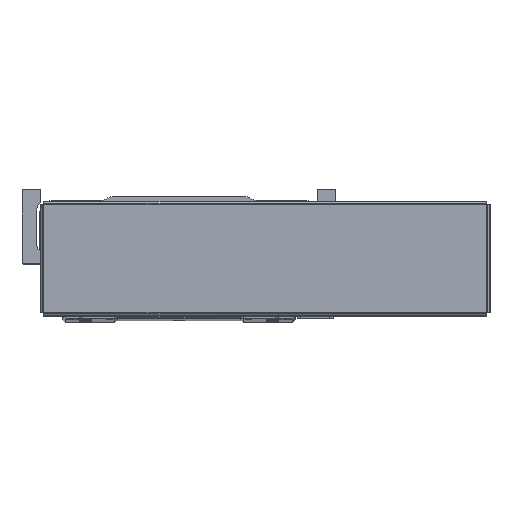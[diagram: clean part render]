
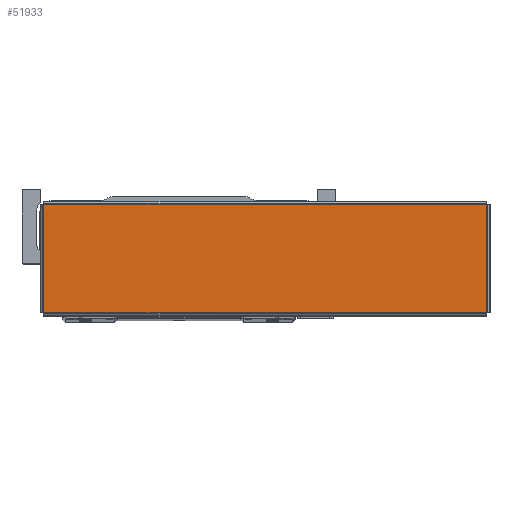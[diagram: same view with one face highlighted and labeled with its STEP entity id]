
A CAD part, top view. The second image highlights one B-rep face of the part: STEP entity #51933.
In plain terms, the highlighted planar face has unit normal (0, 0, 1) as drawn and (0, -1, 0) by its records, which use the part's own axes.
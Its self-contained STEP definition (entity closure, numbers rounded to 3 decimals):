
#2191 = EDGE_CURVE ( 'NONE', #20374, #20381, #20033, .T. ) ;
#2199 = EDGE_CURVE ( 'NONE', #55512, #55524, #20116, .T. ) ;
#4854 = CARTESIAN_POINT ( 'NONE',  ( -128.363, -1.2, -31.363 ) ) ;
#4870 = CARTESIAN_POINT ( 'NONE',  ( 128.363, -1.2, -31.363 ) ) ;
#12681 = DIRECTION ( 'NONE',  ( 0., 0., 1. ) ) ;
#12742 = CARTESIAN_POINT ( 'NONE',  ( 128.363, -1.2, -31.393 ) ) ;
#12865 = CARTESIAN_POINT ( 'NONE',  ( -128.363, -1.2, 31.393 ) ) ;
#12886 = DIRECTION ( 'NONE',  ( 0., 0., -1. ) ) ;
#18002 = ORIENTED_EDGE ( 'NONE', *, *, #2191, .T. ) ;
#18003 = ORIENTED_EDGE ( 'NONE', *, *, #25965, .T. ) ;
#18035 = ORIENTED_EDGE ( 'NONE', *, *, #2199, .T. ) ;
#18052 = ORIENTED_EDGE ( 'NONE', *, *, #25944, .T. ) ;
#20005 = VECTOR ( 'NONE', #41312, 1000. ) ;
#20033 = LINE ( 'NONE', #41243, #20005 ) ;
#20116 = LINE ( 'NONE', #41287, #20119 ) ;
#20119 = VECTOR ( 'NONE', #41300, 1000. ) ;
#20374 = VERTEX_POINT ( 'NONE', #4854 ) ;
#20381 = VERTEX_POINT ( 'NONE', #4870 ) ;
#23655 = DIRECTION ( 'NONE',  ( 0., 0., 1. ) ) ;
#23715 = PLANE ( 'NONE',  #24712 ) ;
#23765 = CARTESIAN_POINT ( 'NONE',  ( 0., -1.2, 0. ) ) ;
#23770 = DIRECTION ( 'NONE',  ( 0., 1., 0. ) ) ;
#24712 = AXIS2_PLACEMENT_3D ( 'NONE', #23765, #23770, #23655 ) ;
#25944 = EDGE_CURVE ( 'NONE', #20381, #55512, #29365, .T. ) ;
#25965 = EDGE_CURVE ( 'NONE', #55524, #20374, #29443, .T. ) ;
#29365 = LINE ( 'NONE', #12742, #29367 ) ;
#29367 = VECTOR ( 'NONE', #12681, 1000. ) ;
#29443 = LINE ( 'NONE', #12865, #29468 ) ;
#29468 = VECTOR ( 'NONE', #12886, 1000. ) ;
#31055 = FACE_OUTER_BOUND ( 'NONE', #32330, .T. ) ;
#32330 = EDGE_LOOP ( 'NONE', ( #18035, #18003, #18002, #18052 ) ) ;
#34988 = CARTESIAN_POINT ( 'NONE',  ( 128.363, -1.2, 31.363 ) ) ;
#35000 = CARTESIAN_POINT ( 'NONE',  ( -128.363, -1.2, 31.363 ) ) ;
#41243 = CARTESIAN_POINT ( 'NONE',  ( -128.393, -1.2, -31.363 ) ) ;
#41287 = CARTESIAN_POINT ( 'NONE',  ( 128.393, -1.2, 31.363 ) ) ;
#41300 = DIRECTION ( 'NONE',  ( -1., 0., 0. ) ) ;
#41312 = DIRECTION ( 'NONE',  ( 1., 0., 0. ) ) ;
#51933 = ADVANCED_FACE ( 'NONE', ( #31055 ), #23715, .F. ) ;
#55512 = VERTEX_POINT ( 'NONE', #34988 ) ;
#55524 = VERTEX_POINT ( 'NONE', #35000 ) ;
